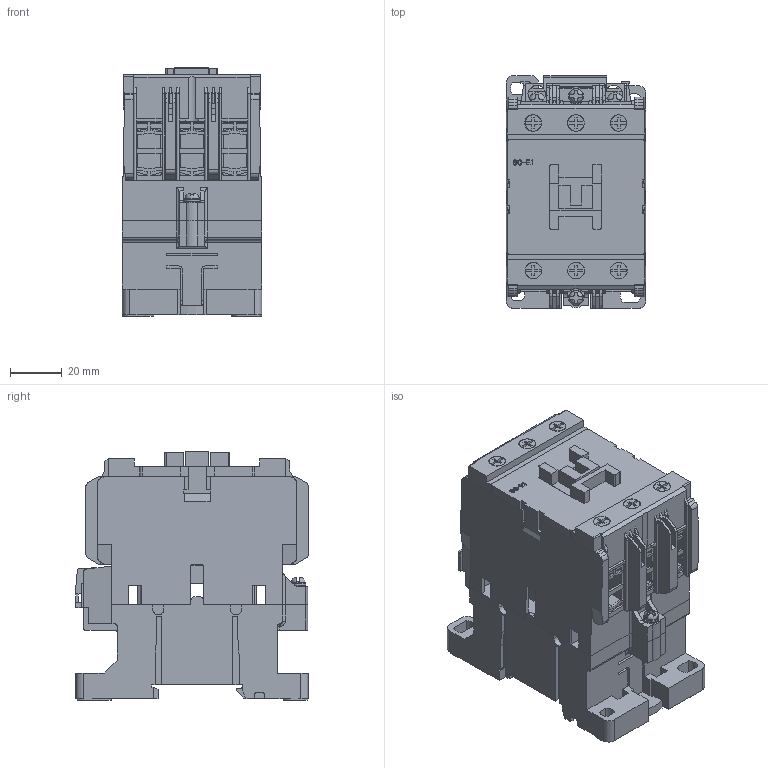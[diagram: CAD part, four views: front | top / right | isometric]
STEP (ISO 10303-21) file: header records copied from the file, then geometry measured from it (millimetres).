
FILE_DESCRIPTION (( 'STEP AP214' ), '1' );
FILE_NAME ('SC-E1.STEP', '2016-01-19T08:23:20', ( '川崎工場' ), ( '富士電機株式会社' ), 'SwSTEP 2.0', 'SolidWorks 2015', '' );
FILE_SCHEMA (( 'AUTOMOTIVE_DESIGN' ));
Length unit declared in the file: millimetre
Products named in the file (14): SC-E1_Lower Case; SC-E1; SC-E1_Upper Case Asm^SC-E1; Copy of Screw_M3_L17^SC-E1_Upper Case Asm_SC-E1; Washer_M3; Springwasher_M3; Screw_M3_L17; SC-E1_Terminal_Plate; SC-E1_Terminal_Cover; SC-E1_Case_cover; SC-E1_Upper Case; SC-E1_Lower Case Asm^SC-E1; Screw_M3.5_L7_端子板付_a; SC-E1_Coil_Terminal_Cover
Assembly tree (21 placements, depth 4):
  SC-E1
    SC-E1_Lower Case Asm^SC-E1
      SC-E1_Lower Case
      SC-E1_Coil_Terminal_Cover
      Screw_M3.5_L7_端子板付_a  x2
    SC-E1_Upper Case Asm^SC-E1
      SC-E1_Upper Case
      SC-E1_Case_cover
      SC-E1_Terminal_Cover  x2
      SC-E1_Terminal_Plate  x6
      Copy of Screw_M3_L17^SC-E1_Upper Case Asm_SC-E1  x2
        Screw_M3_L17
        Springwasher_M3
        Washer_M3
Bounding box: 54 x 90 x 96 mm (x, y, z)
Volume: 257897.8 mm3; surface area: 103256.6 mm2
Topology: 32 solids, 32 shells, 1846 faces, 5322 edges, 3521 vertices
Faces by surface type: plane 1427, cylinder 350, bspline 45, cone 16, torus 6, sphere 2
Full cylindrical faces by diameter (mm): 3 x4, 3.2 x2, 3.3 x6, 3.303 x1, 3.421 x1, 3.5 x14, 4 x8, 6 x2, 6.3 x6, 6.5 x6, 6.8 x2, 8 x6
Entity records: 46064 total; most frequent: CARTESIAN_POINT 10092, ORIENTED_EDGE 7730, DIRECTION 6786, EDGE_CURVE 3865, LINE 3204, VECTOR 3204, VERTEX_POINT 2575, AXIS2_PLACEMENT_3D 1791
